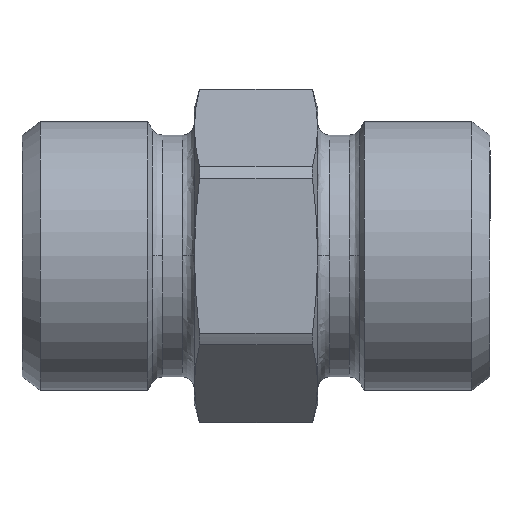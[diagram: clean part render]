
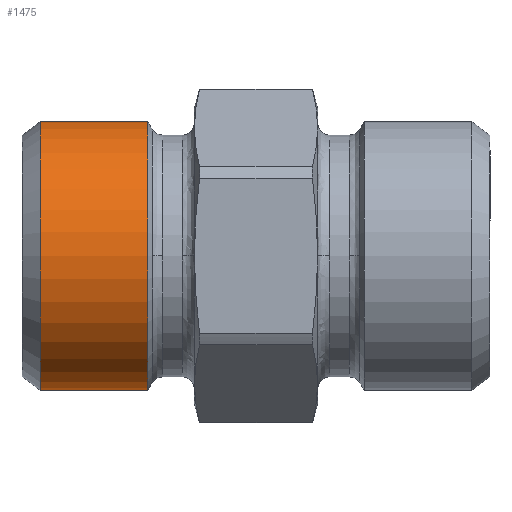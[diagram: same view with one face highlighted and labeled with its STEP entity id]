
A CAD part, top view. The second image highlights one B-rep face of the part: STEP entity #1475.
In plain terms, the highlighted cylindrical face has radius 10.925 mm (diameter 21.85 mm), a partial arc.
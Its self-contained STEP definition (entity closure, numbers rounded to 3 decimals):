
#859=CARTESIAN_POINT('',(0.,-10.925,17.507));
#860=VERTEX_POINT('',#859);
#861=CARTESIAN_POINT('',(0.,-10.925,8.8));
#862=VERTEX_POINT('',#861);
#863=CARTESIAN_POINT('',(0.,-10.925,17.507));
#864=DIRECTION('',(0.0,0.0,-1.0));
#865=VECTOR('',#864,8.708);
#866=LINE('',#863,#865);
#867=EDGE_CURVE('',#860,#862,#866,.T.);
#869=CARTESIAN_POINT('',(0.,10.925,17.507));
#870=VERTEX_POINT('',#869);
#878=CARTESIAN_POINT('',(0.,10.925,8.8));
#879=VERTEX_POINT('',#878);
#880=CARTESIAN_POINT('',(0.,10.925,8.8));
#881=DIRECTION('',(0.0,0.0,1.0));
#882=VECTOR('',#881,8.708);
#883=LINE('',#880,#882);
#884=EDGE_CURVE('',#879,#870,#883,.T.);
#1351=CARTESIAN_POINT('',(0.,0.,8.8));
#1352=DIRECTION('',(0.0,0.0,-1.0));
#1353=DIRECTION('',(0.0,-1.0,0.0));
#1354=AXIS2_PLACEMENT_3D('',#1351,#1352,#1353);
#1355=CIRCLE('',#1354,10.925);
#1356=EDGE_CURVE('',#879,#862,#1355,.T.);
#1452=CARTESIAN_POINT('',(0.,0.,17.507));
#1453=DIRECTION('',(0.0,0.0,-1.0));
#1454=DIRECTION('',(0.0,-1.0,0.0));
#1455=AXIS2_PLACEMENT_3D('',#1452,#1453,#1454);
#1456=CIRCLE('',#1455,10.925);
#1457=EDGE_CURVE('',#870,#860,#1456,.T.);
#1464=CARTESIAN_POINT('',(0.,0.,13.153));
#1465=DIRECTION('',(0.,0.,-1.0));
#1466=DIRECTION('',(0.0,-1.0,0.0));
#1467=AXIS2_PLACEMENT_3D('',#1464,#1465,#1466);
#1468=CYLINDRICAL_SURFACE('',#1467,10.925);
#1469=ORIENTED_EDGE('',*,*,#867,.T.);
#1470=ORIENTED_EDGE('',*,*,#1356,.F.);
#1471=ORIENTED_EDGE('',*,*,#884,.T.);
#1472=ORIENTED_EDGE('',*,*,#1457,.T.);
#1473=EDGE_LOOP('',(#1469,#1470,#1471,#1472));
#1474=FACE_OUTER_BOUND('',#1473,.T.);
#1475=ADVANCED_FACE('',(#1474),#1468,.T.);
